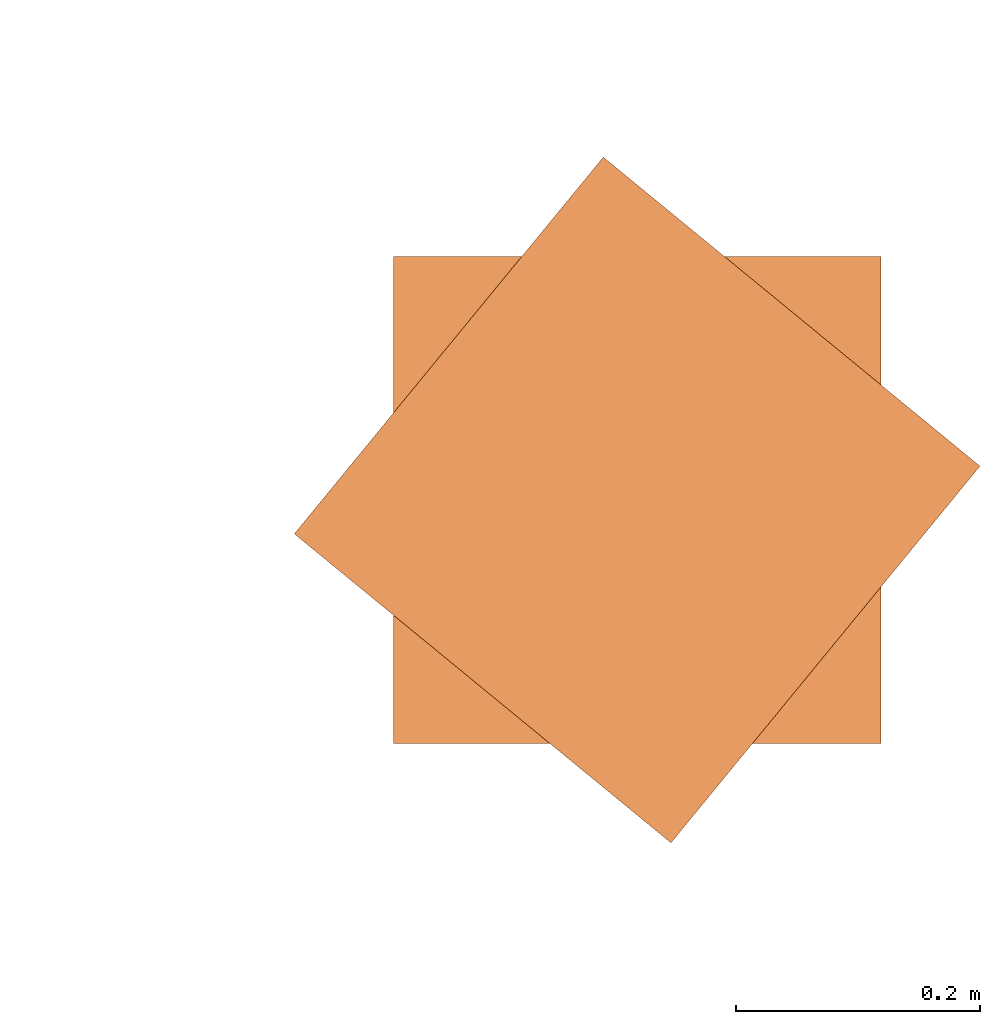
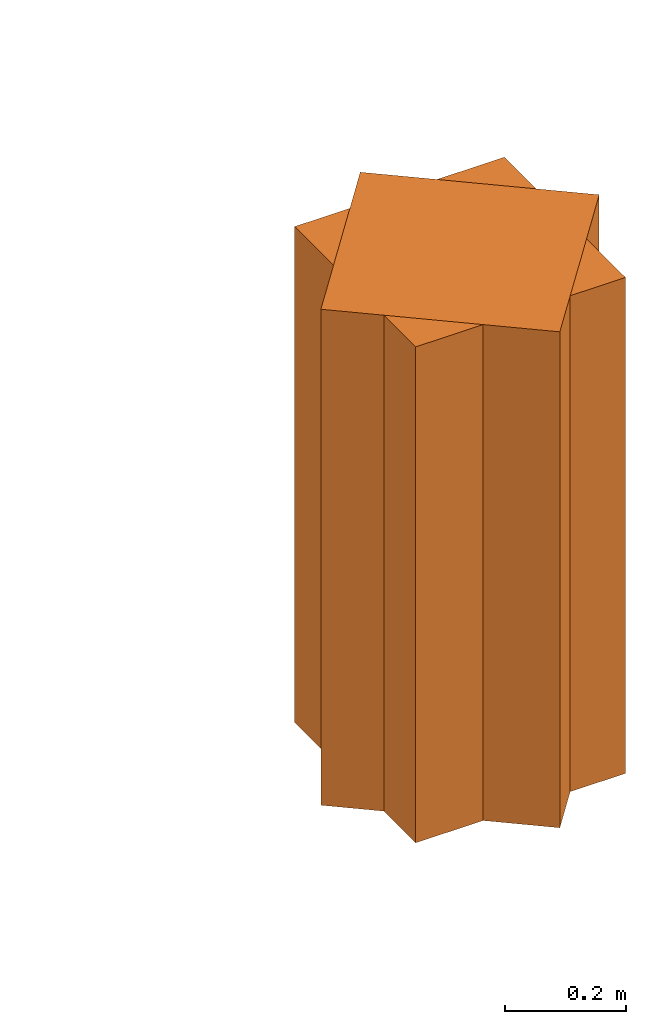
# One storey, part 360 of 418: 2 proxies.
"""IFC2X3 building model written with IfcOpenShell, lengths in millimetres."""

from ifc_helpers import new_model, entity, si_unit, converted_unit, derived_unit, money_unit, direction, frame, origin_with_axes, place, context, subcontext, project, spatial, faceted_brep, source, transform, mapped, type_object, element, save


model = new_model("IFC2X3")

# Units and contexts
model_context = context("Model", 3, precision=0.01, world=origin_with_axes(), true_north=direction((0.0, 1.0)))
body_context = subcontext(model_context, "Body", "Model", "MODEL_VIEW")
ifc_project = project(units=[si_unit("LENGTHUNIT", "METRE", prefix="MILLI"), si_unit("AREAUNIT", "SQUARE_METRE"), si_unit("VOLUMEUNIT", "CUBIC_METRE"), converted_unit("PLANEANGLEUNIT", "DEGREE", entity("IfcPlaneAngleMeasure", 0.0174532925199), si_unit("PLANEANGLEUNIT", "RADIAN"), dimensions=[0, 0, 0, 0, 0, 0, 0]), si_unit("SOLIDANGLEUNIT", "STERADIAN"), money_unit("EUR"), converted_unit("TIMEUNIT", "Year", entity("IfcTimeMeasure", 31556926.0), si_unit("TIMEUNIT", "SECOND"), dimensions=[0, 0, 1, 0, 0, 0, 0]), si_unit("MASSUNIT", "GRAM", prefix="KILO"), si_unit("THERMODYNAMICTEMPERATUREUNIT", "DEGREE_CELSIUS"), si_unit("LUMINOUSINTENSITYUNIT", "LUMEN"), si_unit("ENERGYUNIT", "JOULE", prefix="MEGA"), derived_unit("THERMALCONDUCTANCEUNIT", [(si_unit("POWERUNIT", "WATT"), 1), (si_unit("LENGTHUNIT", "METRE"), -1), (si_unit("THERMODYNAMICTEMPERATUREUNIT", "KELVIN"), -1)]), derived_unit("SPECIFICHEATCAPACITYUNIT", [(si_unit("ENERGYUNIT", "JOULE"), 1), (si_unit("MASSUNIT", "GRAM", prefix="KILO"), -1), (si_unit("THERMODYNAMICTEMPERATUREUNIT", "KELVIN"), -1)]), derived_unit("MASSDENSITYUNIT", [(si_unit("MASSUNIT", "GRAM", prefix="KILO"), 1), (si_unit("VOLUMEUNIT", "CUBIC_METRE"), -1)])], contexts=[model_context])

# Site, building, storey
site_placement = place(None, origin_with_axes())
site = spatial("IfcSite", under=ifc_project, at=site_placement, Name="Paldiski mnt 245/1, Tallinn, Harjumaa", CompositionType="COMPLEX")
building_placement = place(site_placement, origin_with_axes())
building = spatial("IfcBuilding", under=site, at=building_placement, Name="RKAS Hoone üldnimetus (kasutust iseloomustav) -> IFC Project Manager -> SOLIBRI", CompositionType="ELEMENT")
storey_placement = place(building_placement, origin_with_axes())
storey = spatial("IfcBuildingStorey", under=building, at=storey_placement, Name="Esimene korrus", CompositionType="ELEMENT", Elevation=0.0)

# Proxies
building_element_proxy_type = type_object("IfcBuildingElementProxyType", Name="Cube 23", PredefinedType="NOTDEFINED")
shared_shape = source(origin_with_axes(), body_context, "Body", "Brep", [
    faceted_brep([(400.0, 0.0, 0.0), (0.0, 0.0, 0.0), (0.0, 400.0, 0.0), (400.0, 400.0, 0.0), (400.0, 0.0, 1000.0), (0.0, 0.0, 1000.0), (0.0, 400.0, 1000.0), (400.0, 400.0, 1000.0)], [[[0, 1, 2, 3]], [[1, 0, 4, 5]], [[2, 1, 5, 6]], [[3, 2, 6, 7]], [[0, 3, 7, 4]], [[5, 4, 7, 6]]]),
])
for number, where, z_axis, x_axis in (
    (1, (281.474654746, 27.7852251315, 0.0), (0.0, 0.0, 1.0), (-0.773149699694, 0.634223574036, 0.0)),
    (2, (-200.0, -200.0, 0.0), (0.0, 0.0, 1.0), (1.0, 0.0, 0.0)),
):
    element("IfcBuildingElementProxy", number, at=place(storey_placement, frame(where, z_axis=z_axis, x_axis=x_axis)), inside=storey, type_object=building_element_proxy_type, Name="REEPER", context=body_context, shape_type="MappedRepresentation", body=[
        mapped(shared_shape, transform((0.0, 0.0, 0.0))),
    ])

save(model, "model.ifc")
